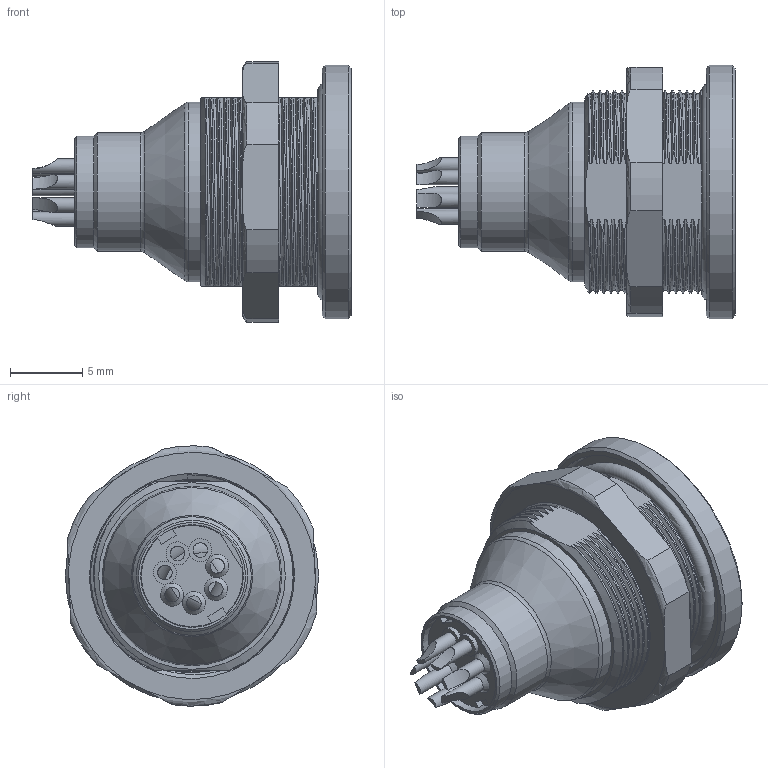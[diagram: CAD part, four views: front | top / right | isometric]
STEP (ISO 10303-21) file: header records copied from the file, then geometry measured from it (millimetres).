
FILE_DESCRIPTION(/* description */ (''),/* implementation_level */ '2;1');
FILE_NAME(/* name */ '09 4927 015 07 001_00-Flanschstecker.stp',/* time_stamp */ '2017-10-18T14:28:10+02:00',/* author */ (''),/* organization */ (''),/* preprocessor_version */ 'ST-DEVELOPER v16',/* originating_system */ 'SIEMENS PLM Software NX 11.0',/* authorisation */ '');
FILE_SCHEMA (('AUTOMOTIVE_DESIGN { 1 0 10303 214 3 1 1 1 }'));
Products named in the file (1): jbyc18A8B9A50pl2
Bounding box: 22 x 17.5 x 18 mm (x, y, z)
Volume: 1458.3 mm3; surface area: 2449.6 mm2
Topology: 2 solids, 2 shells, 352 faces, 922 edges, 600 vertices
Faces by surface type: cylinder 133, bspline 85, plane 80, cone 29, torus 25
Full cylindrical faces by diameter (mm): 0.5 x7, 1 x7, 6.1 x1, 7.1 x1, 7.4 x3, 7.7 x1, 8.2 x1, 12.3 x2, 12.4 x1, 14.2 x1, 16.4 x1, 17.5 x1
Entity records: 45870 total; most frequent: CARTESIAN_POINT 38372, ORIENTED_EDGE 1650, DIRECTION 1232, EDGE_CURVE 825, VERTEX_POINT 571, AXIS2_PLACEMENT_3D 471, EDGE_LOOP 448, ADVANCED_FACE 352
